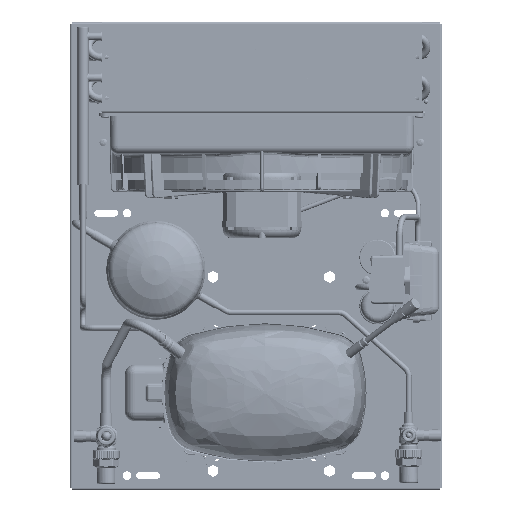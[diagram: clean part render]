
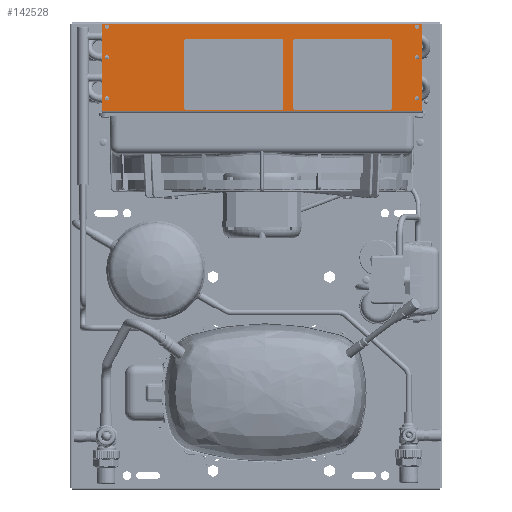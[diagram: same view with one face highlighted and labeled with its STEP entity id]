
A CAD part, top view. The second image highlights one B-rep face of the part: STEP entity #142528.
In plain terms, the highlighted planar face has unit normal (0, 0, 1).
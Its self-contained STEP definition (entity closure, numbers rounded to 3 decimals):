
#15088=LINE('',#229899,#23010);
#15101=LINE('',#229946,#23023);
#15105=LINE('',#229955,#23027);
#15107=LINE('',#229959,#23029);
#23010=VECTOR('',#198214,1000.);
#23023=VECTOR('',#198261,1000.);
#23027=VECTOR('',#198271,1000.);
#23029=VECTOR('',#198277,1000.);
#33406=ORIENTED_EDGE('',*,*,#74946,.F.);
#33407=ORIENTED_EDGE('',*,*,#74947,.F.);
#33408=ORIENTED_EDGE('',*,*,#74948,.F.);
#33409=ORIENTED_EDGE('',*,*,#74949,.F.);
#33410=ORIENTED_EDGE('',*,*,#74950,.F.);
#33411=ORIENTED_EDGE('',*,*,#74951,.F.);
#33412=ORIENTED_EDGE('',*,*,#74938,.T.);
#33413=ORIENTED_EDGE('',*,*,#74943,.F.);
#33414=ORIENTED_EDGE('',*,*,#74915,.F.);
#33415=ORIENTED_EDGE('',*,*,#74945,.T.);
#74915=EDGE_CURVE('',#96189,#96190,#15088,.T.);
#74938=EDGE_CURVE('',#96207,#96205,#15101,.T.);
#74943=EDGE_CURVE('',#96190,#96205,#15105,.T.);
#74945=EDGE_CURVE('',#96189,#96207,#15107,.T.);
#74946=EDGE_CURVE('',#96209,#96209,#110255,.T.);
#74947=EDGE_CURVE('',#96210,#96210,#110256,.T.);
#74948=EDGE_CURVE('',#96211,#96211,#110257,.T.);
#74949=EDGE_CURVE('',#96212,#96212,#110258,.T.);
#74950=EDGE_CURVE('',#96213,#96213,#110259,.T.);
#74951=EDGE_CURVE('',#96214,#96214,#110260,.T.);
#96189=VERTEX_POINT('',#229898);
#96190=VERTEX_POINT('',#229900);
#96205=VERTEX_POINT('',#229944);
#96207=VERTEX_POINT('',#229947);
#96209=VERTEX_POINT('',#229962);
#96210=VERTEX_POINT('',#229964);
#96211=VERTEX_POINT('',#229966);
#96212=VERTEX_POINT('',#229968);
#96213=VERTEX_POINT('',#229970);
#96214=VERTEX_POINT('',#229972);
#110255=CIRCLE('',#183716,2.25);
#110256=CIRCLE('',#183717,2.25);
#110257=CIRCLE('',#183718,2.25);
#110258=CIRCLE('',#183719,2.25);
#110259=CIRCLE('',#183720,2.25);
#110260=CIRCLE('',#183721,2.25);
#115280=EDGE_LOOP('',(#33406));
#115281=EDGE_LOOP('',(#33407));
#115282=EDGE_LOOP('',(#33408));
#115283=EDGE_LOOP('',(#33409));
#115284=EDGE_LOOP('',(#33410));
#115285=EDGE_LOOP('',(#33411));
#115286=EDGE_LOOP('',(#33412,#33413,#33414,#33415));
#126987=FACE_BOUND('',#115280,.T.);
#126988=FACE_BOUND('',#115281,.T.);
#126989=FACE_BOUND('',#115282,.T.);
#126990=FACE_BOUND('',#115283,.T.);
#126991=FACE_BOUND('',#115284,.T.);
#126992=FACE_BOUND('',#115285,.T.);
#126993=FACE_BOUND('',#115286,.T.);
#137142=PLANE('',#183715);
#142528=ADVANCED_FACE('',(#126987,#126988,#126989,#126990,#126991,#126992,
#126993),#137142,.F.);
#183715=AXIS2_PLACEMENT_3D('',#229960,#198278,#198279);
#183716=AXIS2_PLACEMENT_3D('',#229961,#198280,#198281);
#183717=AXIS2_PLACEMENT_3D('',#229963,#198282,#198283);
#183718=AXIS2_PLACEMENT_3D('',#229965,#198284,#198285);
#183719=AXIS2_PLACEMENT_3D('',#229967,#198286,#198287);
#183720=AXIS2_PLACEMENT_3D('',#229969,#198288,#198289);
#183721=AXIS2_PLACEMENT_3D('',#229971,#198290,#198291);
#198214=DIRECTION('',(1.,0.,0.));
#198261=DIRECTION('',(1.,0.,0.));
#198271=DIRECTION('',(0.,-1.,0.));
#198277=DIRECTION('',(0.,-1.,0.));
#198278=DIRECTION('',(0.,0.,-1.));
#198279=DIRECTION('',(-1.,0.,0.));
#198280=DIRECTION('',(0.,0.,1.));
#198281=DIRECTION('',(0.,1.,0.));
#198282=DIRECTION('',(0.,0.,1.));
#198283=DIRECTION('',(0.,1.,0.));
#198284=DIRECTION('',(0.,0.,1.));
#198285=DIRECTION('',(0.,1.,0.));
#198286=DIRECTION('',(0.,0.,1.));
#198287=DIRECTION('',(0.,1.,0.));
#198288=DIRECTION('',(0.,0.,1.));
#198289=DIRECTION('',(0.,1.,0.));
#198290=DIRECTION('',(0.,0.,1.));
#198291=DIRECTION('',(0.,1.,0.));
#229898=CARTESIAN_POINT('',(-45.5,167.5,0.));
#229899=CARTESIAN_POINT('',(-47.5,167.5,0.));
#229900=CARTESIAN_POINT('',(45.5,167.5,0.));
#229944=CARTESIAN_POINT('',(45.5,-167.5,0.));
#229946=CARTESIAN_POINT('',(-47.5,-167.5,0.));
#229947=CARTESIAN_POINT('',(-45.5,-167.5,0.));
#229955=CARTESIAN_POINT('',(45.5,167.5,0.));
#229959=CARTESIAN_POINT('',(-45.5,167.5,0.));
#229960=CARTESIAN_POINT('',(-47.5,167.5,0.));
#229961=CARTESIAN_POINT('',(42.5,162.5,0.));
#229962=CARTESIAN_POINT('',(42.5,164.75,0.));
#229963=CARTESIAN_POINT('',(42.5,-162.5,0.));
#229964=CARTESIAN_POINT('',(42.5,-160.25,0.));
#229965=CARTESIAN_POINT('',(-32.5,-162.5,0.));
#229966=CARTESIAN_POINT('',(-32.5,-160.25,0.));
#229967=CARTESIAN_POINT('',(-32.5,162.5,0.));
#229968=CARTESIAN_POINT('',(-32.5,164.75,0.));
#229969=CARTESIAN_POINT('',(10.5,-162.5,0.));
#229970=CARTESIAN_POINT('',(10.5,-160.25,0.));
#229971=CARTESIAN_POINT('',(10.5,162.5,0.));
#229972=CARTESIAN_POINT('',(10.5,164.75,0.));
